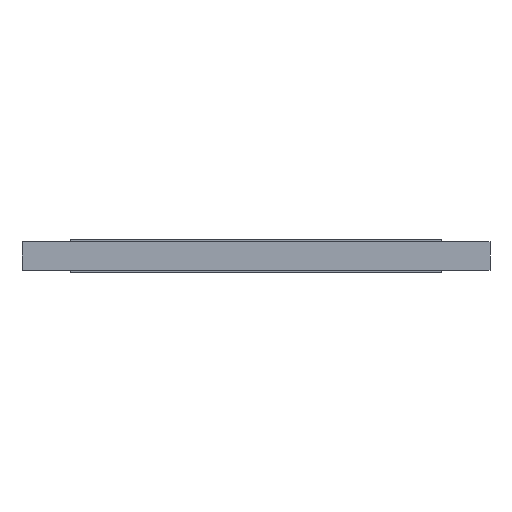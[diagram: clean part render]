
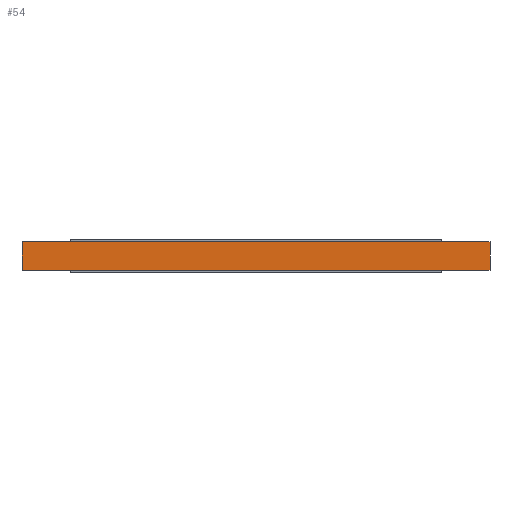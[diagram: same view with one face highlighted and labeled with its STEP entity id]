
A CAD part, top view. The second image highlights one B-rep face of the part: STEP entity #54.
In plain terms, the highlighted planar face has unit normal (0, 0, 1).
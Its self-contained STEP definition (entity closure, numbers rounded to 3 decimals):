
#54 = ADVANCED_FACE( '', ( #113 ), #114, .T. );
#113 = FACE_OUTER_BOUND( '', #174, .T. );
#114 = PLANE( '', #175 );
#174 = EDGE_LOOP( '', ( #259, #260, #261, #262, #263, #264, #265, #266 ) );
#175 = AXIS2_PLACEMENT_3D( '', #267, #268, #269 );
#259 = ORIENTED_EDGE( '', *, *, #399, .T. );
#260 = ORIENTED_EDGE( '', *, *, #400, .T. );
#261 = ORIENTED_EDGE( '', *, *, #379, .T. );
#262 = ORIENTED_EDGE( '', *, *, #392, .T. );
#263 = ORIENTED_EDGE( '', *, *, #372, .T. );
#264 = ORIENTED_EDGE( '', *, *, #401, .F. );
#265 = ORIENTED_EDGE( '', *, *, #394, .T. );
#266 = ORIENTED_EDGE( '', *, *, #402, .T. );
#267 = CARTESIAN_POINT( '', ( 0., 0., 1.5 ) );
#268 = DIRECTION( '', ( 0., 0., 1. ) );
#269 = DIRECTION( '', ( 1., 0., 0. ) );
#372 = EDGE_CURVE( '', #436, #433, #437, .T. );
#379 = EDGE_CURVE( '', #443, #447, #449, .T. );
#392 = EDGE_CURVE( '', #447, #436, #470, .T. );
#394 = EDGE_CURVE( '', #472, #473, #474, .T. );
#399 = EDGE_CURVE( '', #481, #482, #483, .T. );
#400 = EDGE_CURVE( '', #482, #443, #484, .T. );
#401 = EDGE_CURVE( '', #472, #433, #485, .T. );
#402 = EDGE_CURVE( '', #473, #481, #486, .T. );
#433 = VERTEX_POINT( '', #523 );
#436 = VERTEX_POINT( '', #527 );
#437 = LINE( '', #528, #529 );
#443 = VERTEX_POINT( '', #537 );
#447 = VERTEX_POINT( '', #543 );
#449 = LINE( '', #546, #547 );
#470 = LINE( '', #577, #578 );
#472 = VERTEX_POINT( '', #580 );
#473 = VERTEX_POINT( '', #581 );
#474 = LINE( '', #582, #583 );
#481 = VERTEX_POINT( '', #593 );
#482 = VERTEX_POINT( '', #594 );
#483 = LINE( '', #595, #596 );
#484 = LINE( '', #597, #598 );
#485 = LINE( '', #599, #600 );
#486 = LINE( '', #601, #602 );
#523 = CARTESIAN_POINT( '', ( 36., -10.75, 1.5 ) );
#527 = CARTESIAN_POINT( '', ( 0., -10.75, 1.5 ) );
#528 = CARTESIAN_POINT( '', ( 0., -10.75, 1.5 ) );
#529 = VECTOR( '', #657, 1000. );
#537 = CARTESIAN_POINT( '', ( 36., 10.75, 1.5 ) );
#543 = CARTESIAN_POINT( '', ( 0., 10.75, 1.5 ) );
#546 = CARTESIAN_POINT( '', ( 348., 10.75, 1.5 ) );
#547 = VECTOR( '', #663, 1000. );
#577 = CARTESIAN_POINT( '', ( 0., 10.75, 1.5 ) );
#578 = VECTOR( '', #673, 1000. );
#580 = CARTESIAN_POINT( '', ( 312., -10.75, 1.5 ) );
#581 = CARTESIAN_POINT( '', ( 348., -10.75, 1.5 ) );
#582 = CARTESIAN_POINT( '', ( 0., -10.75, 1.5 ) );
#583 = VECTOR( '', #674, 1000. );
#593 = CARTESIAN_POINT( '', ( 348., 10.75, 1.5 ) );
#594 = CARTESIAN_POINT( '', ( 312., 10.75, 1.5 ) );
#595 = CARTESIAN_POINT( '', ( 348., 10.75, 1.5 ) );
#596 = VECTOR( '', #678, 1000. );
#597 = CARTESIAN_POINT( '', ( 312., 10.75, 1.5 ) );
#598 = VECTOR( '', #679, 1000. );
#599 = CARTESIAN_POINT( '', ( 312., -10.75, 1.5 ) );
#600 = VECTOR( '', #680, 1000. );
#601 = CARTESIAN_POINT( '', ( 348., -10.75, 1.5 ) );
#602 = VECTOR( '', #681, 1000. );
#657 = DIRECTION( '', ( 1., 0., 0. ) );
#663 = DIRECTION( '', ( -1., 0., 0. ) );
#673 = DIRECTION( '', ( 0., -1., 0. ) );
#674 = DIRECTION( '', ( 1., 0., 0. ) );
#678 = DIRECTION( '', ( -1., 0., 0. ) );
#679 = DIRECTION( '', ( -1., 0., 0. ) );
#680 = DIRECTION( '', ( -1., 0., 0. ) );
#681 = DIRECTION( '', ( 0., 1., 0. ) );
